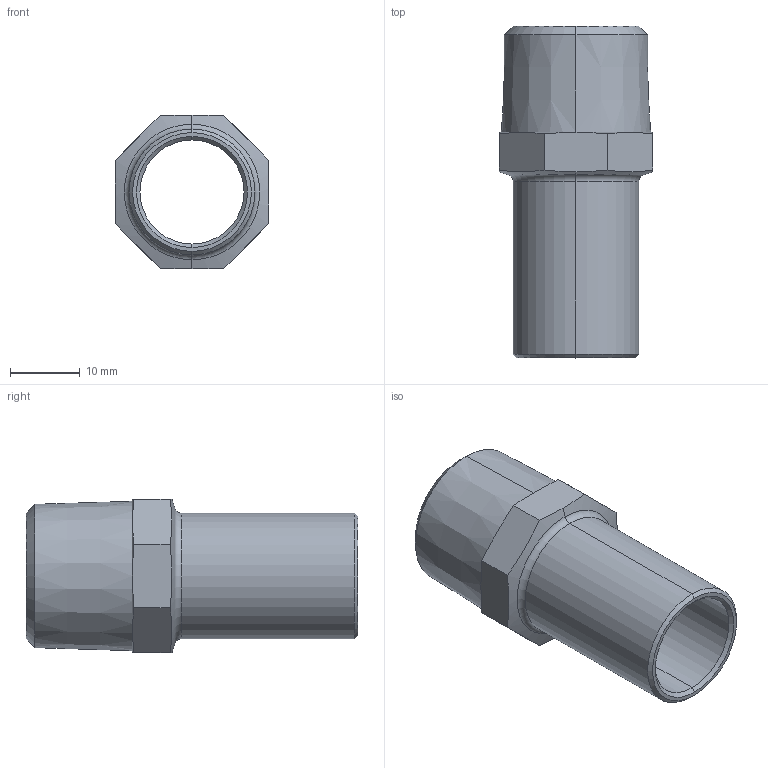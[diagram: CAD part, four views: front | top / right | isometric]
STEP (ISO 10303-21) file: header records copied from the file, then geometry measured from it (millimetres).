
FILE_DESCRIPTION (( 'STEP AP203' ), '1' );
FILE_NAME ('SP4280G Ø18 1-2.STEP', '2017-04-26T09:05:09', ( '' ), ( '' ), 'SwSTEP 2.0', 'SolidWorks 2016', '' );
FILE_SCHEMA (( 'CONFIG_CONTROL_DESIGN' ));
Length unit declared in the file: millimetre
Products named in the file (1): SP4280G Ø18 1-2
Bounding box: 22 x 47.5 x 22 mm (x, y, z)
Volume: 5632.7 mm3; surface area: 5456.5 mm2
Topology: 1 solids, 1 shells, 34 faces, 78 edges, 46 vertices
Faces by surface type: cone 16, plane 10, cylinder 6, torus 2
Entity records: 1071 total; most frequent: CARTESIAN_POINT 243, DIRECTION 156, ORIENTED_EDGE 156, EDGE_CURVE 78, AXIS2_PLACEMENT_3D 63, VERTEX_POINT 46, EDGE_LOOP 36, FACE_OUTER_BOUND 34
